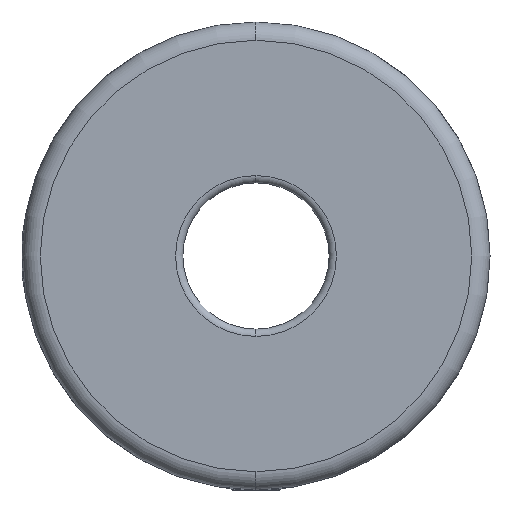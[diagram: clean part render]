
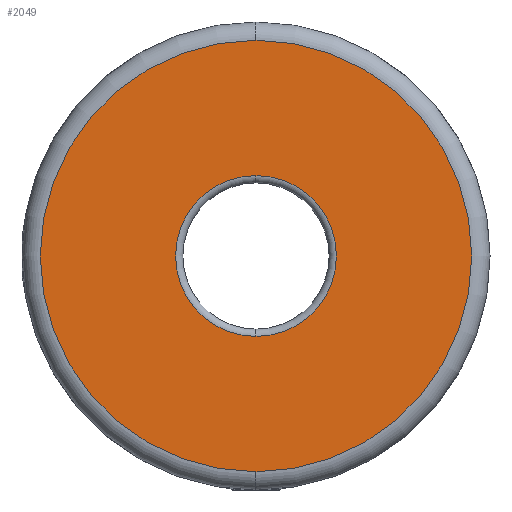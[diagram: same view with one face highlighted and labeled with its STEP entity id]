
A CAD part, left-side view. The second image highlights one B-rep face of the part: STEP entity #2049.
In plain terms, the highlighted planar face has unit normal (-1, 0, 0).
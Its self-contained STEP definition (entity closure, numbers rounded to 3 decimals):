
#117 = DIRECTION ( 'NONE',  ( 0., 0., -1. ) ) ;
#118 = DIRECTION ( 'NONE',  ( 1., 0., 0. ) ) ;
#154 = DIRECTION ( 'NONE',  ( 0., 0., -1. ) ) ;
#185 = DIRECTION ( 'NONE',  ( -1., 0., 0. ) ) ;
#199 = CARTESIAN_POINT ( 'NONE',  ( -20.5, 0., 0. ) ) ;
#229 = CARTESIAN_POINT ( 'NONE',  ( -20.5, 0., 0. ) ) ;
#287 = PLANE ( 'NONE',  #2835 ) ;
#379 = CIRCLE ( 'NONE', #2279, 14.75 ) ;
#494 = DIRECTION ( 'NONE',  ( 1., 0., 0. ) ) ;
#865 = CIRCLE ( 'NONE', #2658, 5.5 ) ;
#982 = ORIENTED_EDGE ( 'NONE', *, *, #3565, .T. ) ;
#1018 = ORIENTED_EDGE ( 'NONE', *, *, #2338, .T. ) ;
#1027 = ORIENTED_EDGE ( 'NONE', *, *, #2041, .T. ) ;
#1046 = ORIENTED_EDGE ( 'NONE', *, *, #2934, .T. ) ;
#1190 = FACE_OUTER_BOUND ( 'NONE', #1867, .T. ) ;
#1197 = CIRCLE ( 'NONE', #2855, 14.75 ) ;
#1206 = FACE_BOUND ( 'NONE', #1827, .T. ) ;
#1469 = CARTESIAN_POINT ( 'NONE',  ( -20.5, 0., -5.5 ) ) ;
#1827 = EDGE_LOOP ( 'NONE', ( #982, #1018 ) ) ;
#1864 = AXIS2_PLACEMENT_3D ( 'NONE', #2725, #494, #3132 ) ;
#1867 = EDGE_LOOP ( 'NONE', ( #1027, #1046 ) ) ;
#2041 = EDGE_CURVE ( 'NONE', #3793, #2583, #1197, .T. ) ;
#2049 = ADVANCED_FACE ( 'NONE', ( #1206, #1190 ), #287, .F. ) ;
#2279 = AXIS2_PLACEMENT_3D ( 'NONE', #3956, #3923, #3912 ) ;
#2338 = EDGE_CURVE ( 'NONE', #3875, #3363, #865, .T. ) ;
#2583 = VERTEX_POINT ( 'NONE', #3695 ) ;
#2658 = AXIS2_PLACEMENT_3D ( 'NONE', #3416, #3407, #3394 ) ;
#2725 = CARTESIAN_POINT ( 'NONE',  ( -20.5, 0., 0. ) ) ;
#2835 = AXIS2_PLACEMENT_3D ( 'NONE', #229, #118, #117 ) ;
#2855 = AXIS2_PLACEMENT_3D ( 'NONE', #199, #185, #154 ) ;
#2859 = CARTESIAN_POINT ( 'NONE',  ( -20.5, 0., -14.75 ) ) ;
#2934 = EDGE_CURVE ( 'NONE', #2583, #3793, #379, .T. ) ;
#3132 = DIRECTION ( 'NONE',  ( 0., 0., -1. ) ) ;
#3363 = VERTEX_POINT ( 'NONE', #1469 ) ;
#3394 = DIRECTION ( 'NONE',  ( 0., 0., -1. ) ) ;
#3407 = DIRECTION ( 'NONE',  ( 1., 0., 0. ) ) ;
#3416 = CARTESIAN_POINT ( 'NONE',  ( -20.5, 0., 0. ) ) ;
#3565 = EDGE_CURVE ( 'NONE', #3363, #3875, #4629, .T. ) ;
#3695 = CARTESIAN_POINT ( 'NONE',  ( -20.5, 0., 14.75 ) ) ;
#3793 = VERTEX_POINT ( 'NONE', #2859 ) ;
#3875 = VERTEX_POINT ( 'NONE', #4485 ) ;
#3912 = DIRECTION ( 'NONE',  ( 0., 0., -1. ) ) ;
#3923 = DIRECTION ( 'NONE',  ( -1., 0., 0. ) ) ;
#3956 = CARTESIAN_POINT ( 'NONE',  ( -20.5, 0., 0. ) ) ;
#4485 = CARTESIAN_POINT ( 'NONE',  ( -20.5, 0., 5.5 ) ) ;
#4629 = CIRCLE ( 'NONE', #1864, 5.5 ) ;
